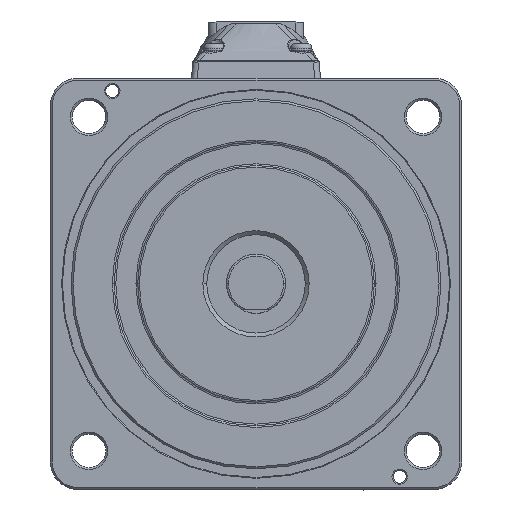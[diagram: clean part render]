
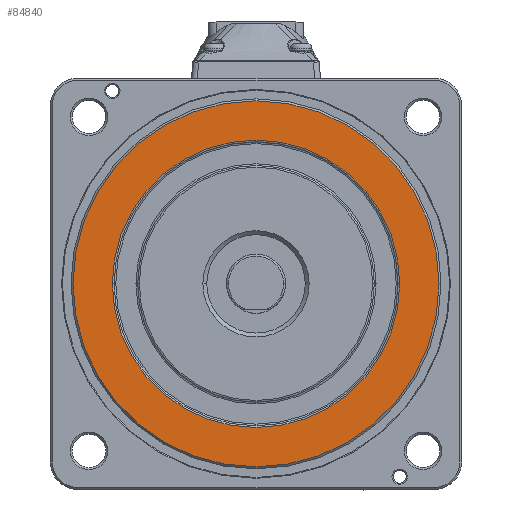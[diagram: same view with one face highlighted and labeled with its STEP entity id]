
A CAD part, top view. The second image highlights one B-rep face of the part: STEP entity #84840.
In plain terms, the highlighted planar face has unit normal (0, 0, 1) as drawn and (0, 0, -1) by its records, which use the part's own axes.
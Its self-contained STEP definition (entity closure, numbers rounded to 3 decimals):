
#6554 = CARTESIAN_POINT ( 'NONE',  ( 0., 0., -12. ) ) ;
#8726 = DIRECTION ( 'NONE',  ( 0., 0., 1. ) ) ;
#9110 = DIRECTION ( 'NONE',  ( 1., 0., 0. ) ) ;
#10422 = CARTESIAN_POINT ( 'NONE',  ( 0., 0., -12. ) ) ;
#11858 = FACE_BOUND ( 'NONE', #86670, .T. ) ;
#12557 = EDGE_CURVE ( 'NONE', #44182, #22320, #59043, .T. ) ;
#15714 = CIRCLE ( 'NONE', #84538, 46.5 ) ;
#16011 = VERTEX_POINT ( 'NONE', #79564 ) ;
#17814 = EDGE_CURVE ( 'NONE', #33498, #16011, #79095, .T. ) ;
#18645 = DIRECTION ( 'NONE',  ( 1., 0., 0. ) ) ;
#19936 = DIRECTION ( 'NONE',  ( 0., 0., -1. ) ) ;
#22320 = VERTEX_POINT ( 'NONE', #53739 ) ;
#25331 = EDGE_CURVE ( 'NONE', #16011, #33498, #15714, .T. ) ;
#25891 = PLANE ( 'NONE',  #47709 ) ;
#26312 = FACE_OUTER_BOUND ( 'NONE', #59613, .T. ) ;
#33498 = VERTEX_POINT ( 'NONE', #81848 ) ;
#33889 = CIRCLE ( 'NONE', #35260, 36.5 ) ;
#35260 = AXIS2_PLACEMENT_3D ( 'NONE', #10422, #43774, #9110 ) ;
#39484 = DIRECTION ( 'NONE',  ( 0., 0., 1. ) ) ;
#43774 = DIRECTION ( 'NONE',  ( 0., 0., -1. ) ) ;
#44182 = VERTEX_POINT ( 'NONE', #79839 ) ;
#45167 = DIRECTION ( 'NONE',  ( 1., 0., 0. ) ) ;
#47709 = AXIS2_PLACEMENT_3D ( 'NONE', #58783, #39484, #85661 ) ;
#50888 = DIRECTION ( 'NONE',  ( 0., 0., 1. ) ) ;
#51034 = AXIS2_PLACEMENT_3D ( 'NONE', #51728, #50888, #45167 ) ;
#51728 = CARTESIAN_POINT ( 'NONE',  ( 0., 0., -12. ) ) ;
#53739 = CARTESIAN_POINT ( 'NONE',  ( 36.5, 0., -12. ) ) ;
#54687 = ORIENTED_EDGE ( 'NONE', *, *, #12557, .F. ) ;
#54798 = DIRECTION ( 'NONE',  ( 1., 0., 0. ) ) ;
#55596 = ORIENTED_EDGE ( 'NONE', *, *, #25331, .F. ) ;
#58783 = CARTESIAN_POINT ( 'NONE',  ( 0., 0., -12. ) ) ;
#59043 = CIRCLE ( 'NONE', #80168, 36.5 ) ;
#59506 = EDGE_CURVE ( 'NONE', #22320, #44182, #33889, .T. ) ;
#59613 = EDGE_LOOP ( 'NONE', ( #74548, #55596 ) ) ;
#74548 = ORIENTED_EDGE ( 'NONE', *, *, #17814, .F. ) ;
#75170 = ORIENTED_EDGE ( 'NONE', *, *, #59506, .F. ) ;
#79095 = CIRCLE ( 'NONE', #51034, 46.5 ) ;
#79241 = CARTESIAN_POINT ( 'NONE',  ( 0., 0., -12. ) ) ;
#79564 = CARTESIAN_POINT ( 'NONE',  ( -46.5, 0., -12. ) ) ;
#79839 = CARTESIAN_POINT ( 'NONE',  ( -36.5, 0., -12. ) ) ;
#80168 = AXIS2_PLACEMENT_3D ( 'NONE', #79241, #19936, #18645 ) ;
#81848 = CARTESIAN_POINT ( 'NONE',  ( 46.5, 0., -12. ) ) ;
#84538 = AXIS2_PLACEMENT_3D ( 'NONE', #6554, #8726, #54798 ) ;
#84840 = ADVANCED_FACE ( 'NONE', ( #11858, #26312 ), #25891, .F. ) ;
#85661 = DIRECTION ( 'NONE',  ( 1., 0., 0. ) ) ;
#86670 = EDGE_LOOP ( 'NONE', ( #75170, #54687 ) ) ;
